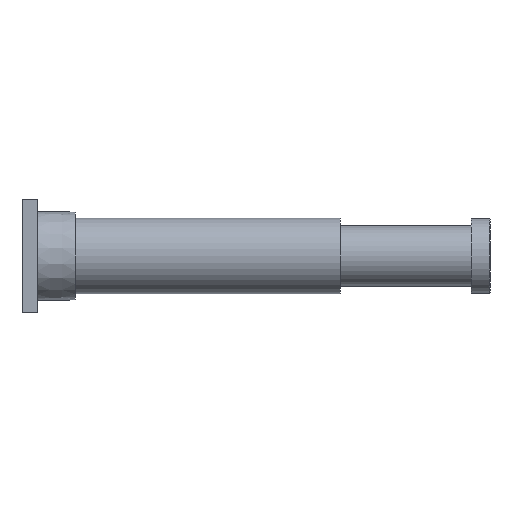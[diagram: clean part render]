
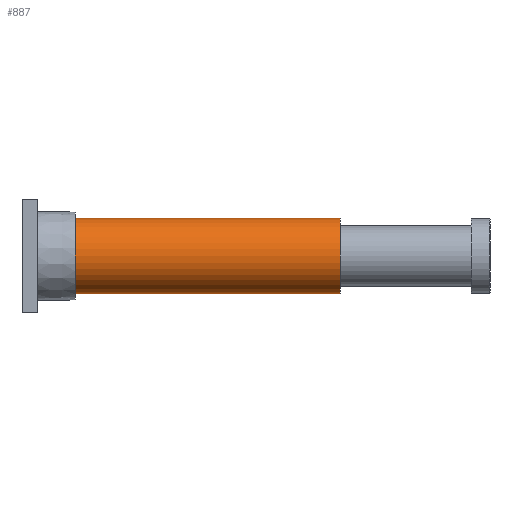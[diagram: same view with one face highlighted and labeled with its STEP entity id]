
A CAD part, front view. The second image highlights one B-rep face of the part: STEP entity #887.
In plain terms, the highlighted cylindrical face has radius 50 mm (diameter 100 mm), a partial arc.
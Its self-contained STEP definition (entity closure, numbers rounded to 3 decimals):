
#19 = DIRECTION ( 'NONE',  ( 0., 0., 1. ) ) ;
#24 = CARTESIAN_POINT ( 'NONE',  ( 400., 0., 0. ) ) ;
#28 = DIRECTION ( 'NONE',  ( -1., 0., 0. ) ) ;
#114 = CIRCLE ( 'NONE', #156, 50. ) ;
#152 = EDGE_CURVE ( 'NONE', #308, #1040, #861, .T. ) ;
#156 = AXIS2_PLACEMENT_3D ( 'NONE', #677, #28, #583 ) ;
#176 = CARTESIAN_POINT ( 'NONE',  ( 400., 0., -50. ) ) ;
#197 = DIRECTION ( 'NONE',  ( -1., 0., 0. ) ) ;
#213 = CARTESIAN_POINT ( 'NONE',  ( 400., 0., 50. ) ) ;
#215 = CARTESIAN_POINT ( 'NONE',  ( 50., 0., 50. ) ) ;
#232 = VECTOR ( 'NONE', #296, 1000. ) ;
#265 = CARTESIAN_POINT ( 'NONE',  ( 400., 0., 50. ) ) ;
#286 = ORIENTED_EDGE ( 'NONE', *, *, #1053, .T. ) ;
#290 = FACE_OUTER_BOUND ( 'NONE', #1112, .T. ) ;
#296 = DIRECTION ( 'NONE',  ( -1., 0., 0. ) ) ;
#308 = VERTEX_POINT ( 'NONE', #215 ) ;
#374 = DIRECTION ( 'NONE',  ( 0., 0., 1. ) ) ;
#388 = DIRECTION ( 'NONE',  ( 1., 0., 0. ) ) ;
#409 = CARTESIAN_POINT ( 'NONE',  ( 50., 0., 0. ) ) ;
#420 = AXIS2_PLACEMENT_3D ( 'NONE', #409, #388, #374 ) ;
#461 = LINE ( 'NONE', #213, #1166 ) ;
#480 = CYLINDRICAL_SURFACE ( 'NONE', #751, 50. ) ;
#493 = CARTESIAN_POINT ( 'NONE',  ( 50., 0., -50. ) ) ;
#500 = CARTESIAN_POINT ( 'NONE',  ( 400., 0., -50. ) ) ;
#524 = ORIENTED_EDGE ( 'NONE', *, *, #152, .T. ) ;
#583 = DIRECTION ( 'NONE',  ( 0., 0., 1. ) ) ;
#677 = CARTESIAN_POINT ( 'NONE',  ( 400., 0., 0. ) ) ;
#721 = ORIENTED_EDGE ( 'NONE', *, *, #910, .F. ) ;
#723 = EDGE_CURVE ( 'NONE', #744, #308, #461, .T. ) ;
#729 = LINE ( 'NONE', #176, #232 ) ;
#744 = VERTEX_POINT ( 'NONE', #265 ) ;
#751 = AXIS2_PLACEMENT_3D ( 'NONE', #24, #1091, #19 ) ;
#848 = ORIENTED_EDGE ( 'NONE', *, *, #723, .T. ) ;
#861 = CIRCLE ( 'NONE', #420, 50. ) ;
#887 = ADVANCED_FACE ( 'NONE', ( #290 ), #480, .T. ) ;
#910 = EDGE_CURVE ( 'NONE', #1101, #1040, #729, .T. ) ;
#1040 = VERTEX_POINT ( 'NONE', #493 ) ;
#1053 = EDGE_CURVE ( 'NONE', #1101, #744, #114, .T. ) ;
#1091 = DIRECTION ( 'NONE',  ( -1., 0., 0. ) ) ;
#1101 = VERTEX_POINT ( 'NONE', #500 ) ;
#1112 = EDGE_LOOP ( 'NONE', ( #721, #286, #848, #524 ) ) ;
#1166 = VECTOR ( 'NONE', #197, 1000. ) ;
